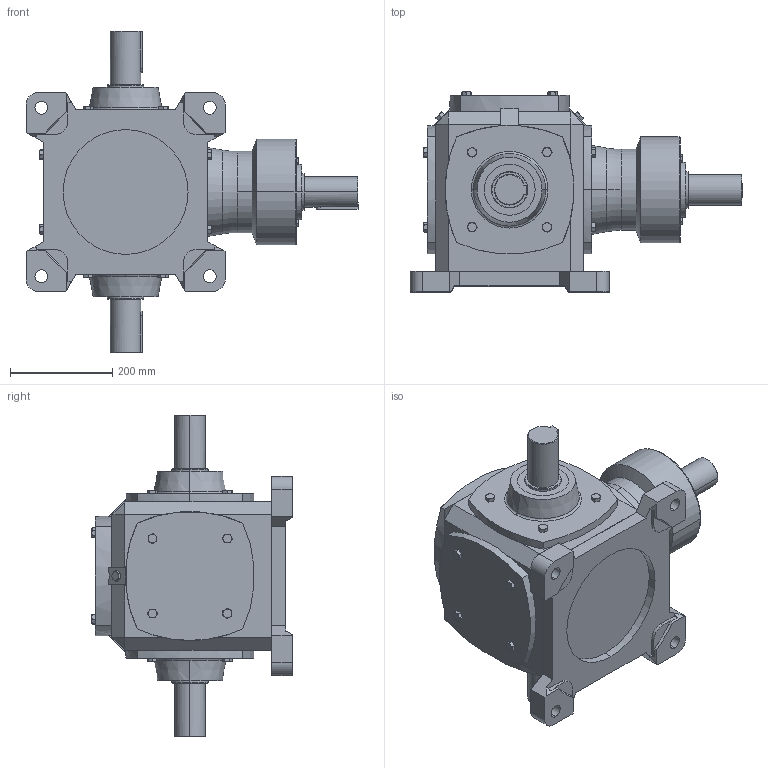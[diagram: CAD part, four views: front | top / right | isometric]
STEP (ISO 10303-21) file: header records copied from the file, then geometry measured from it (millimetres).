
FILE_DESCRIPTION (( 'STEP AP203' ), '1' );
FILE_NAME ('TC16-1-WB1-b5.step', '2018-07-13T02:27:54', ( 'IT Division' ), ( 'IT' ), 'SwSTEP 2.0', 'SolidWorks 2016', '' );
FILE_SCHEMA (( 'CONFIG_CONTROL_DESIGN' ));
Length unit declared in the file: millimetre
Products named in the file (1): TC16-1-WB1-b5
Bounding box: 650 x 391.91 x 630 mm (x, y, z)
Volume: 40622672.8 mm3; surface area: 1134295 mm2
Topology: 2 solids, 2 shells, 620 faces, 1481 edges, 904 vertices
Faces by surface type: plane 316, cone 199, cylinder 93, torus 12
Entity records: 19063 total; most frequent: CARTESIAN_POINT 5101, ORIENTED_EDGE 2962, DIRECTION 2765, EDGE_CURVE 1481, AXIS2_PLACEMENT_3D 1020, VERTEX_POINT 904, LINE 725, VECTOR 725
